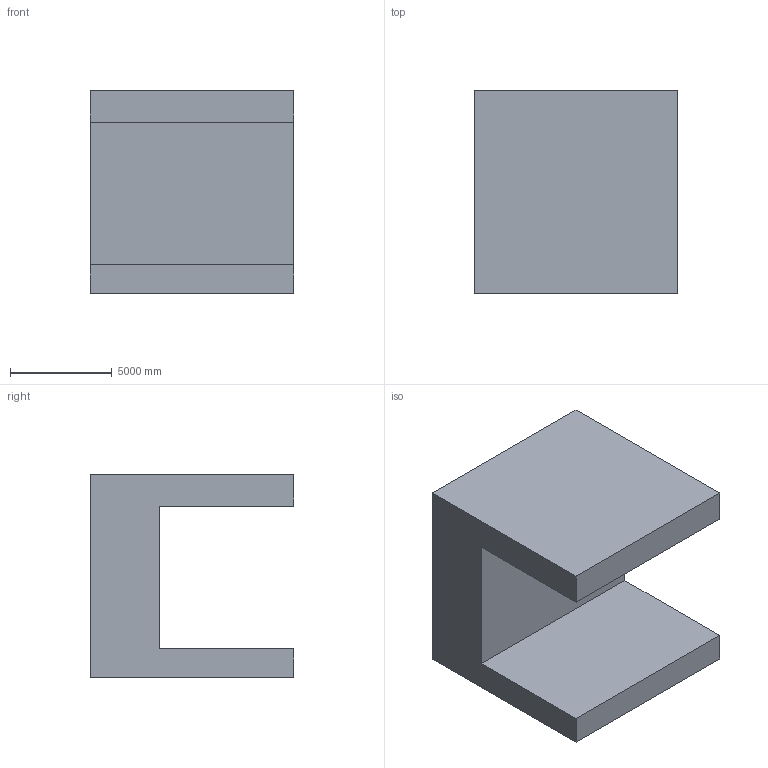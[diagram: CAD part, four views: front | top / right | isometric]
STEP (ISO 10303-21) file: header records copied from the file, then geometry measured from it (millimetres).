
FILE_DESCRIPTION (( 'STEP AP203' ), '1' );
FILE_NAME ('98.STEP', '2022-07-28T13:36:38', ( 'user' ), ( '' ), 'SwSTEP 2.0', 'SolidWorks 2021', '' );
FILE_SCHEMA (( 'CONFIG_CONTROL_DESIGN' ));
Length unit declared in the file: centimetre
Products named in the file (1): 98
Bounding box: 10000 x 10000 x 10000 mm (x, y, z)
Volume: 505715354603.8 mm3; surface area: 632672177.8 mm2
Topology: 1 solids, 1 shells, 12 faces, 30 edges, 20 vertices
Faces by surface type: plane 12
Entity records: 431 total; most frequent: CARTESIAN_POINT 63, ORIENTED_EDGE 60, DIRECTION 56, EDGE_CURVE 30, VECTOR 30, LINE 30, VERTEX_POINT 20, AXIS2_PLACEMENT_3D 13
